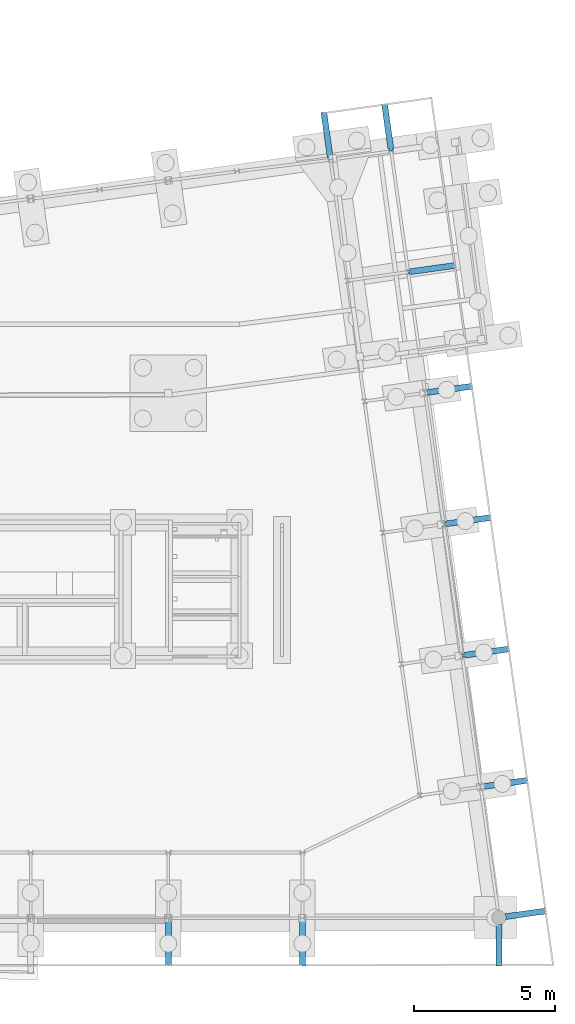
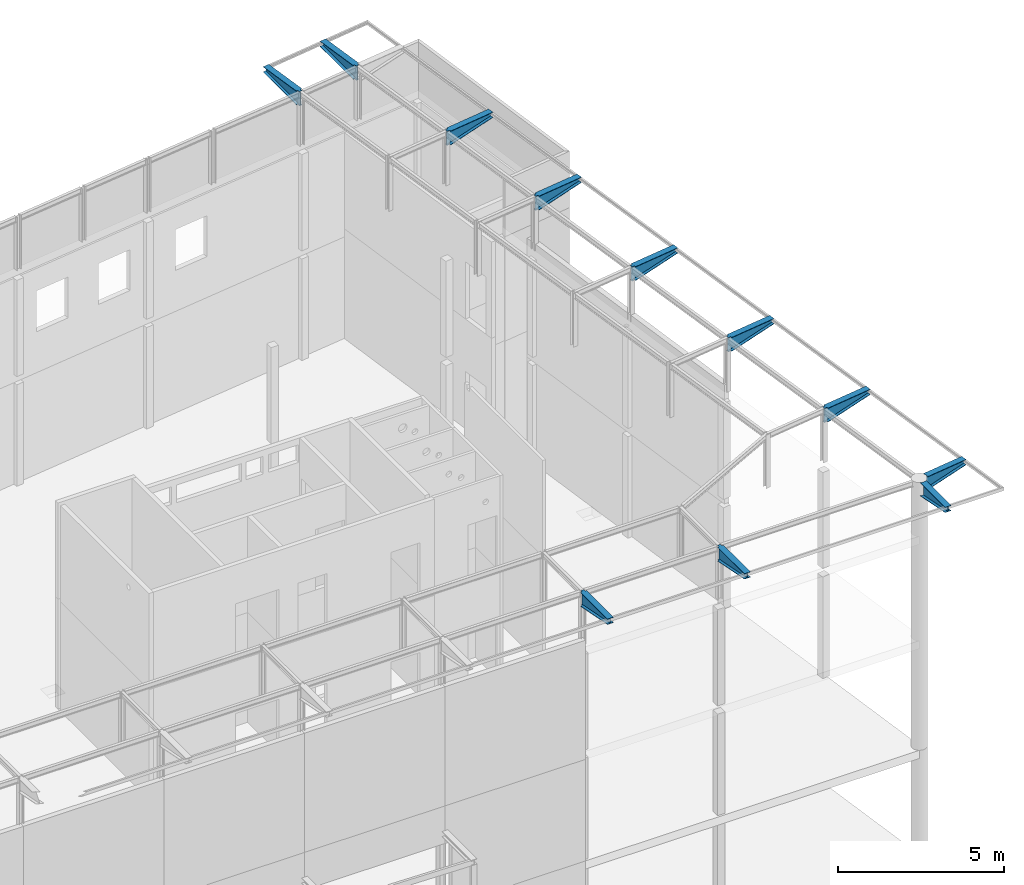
# One storey, part 81 of 82: 11 beams.
"""IFC2X3 building model written with IfcOpenShell, lengths in millimetres."""

import ifcopenshell
import ifcopenshell.guid

model = None  # the IFC model being written
_history = None  # IfcOwnerHistory: only IFC2X3 demands one
_inside = {}  # id of a spatial element -> (the spatial element, [elements in it])
_under = {}  # id of a project, library or spatial element -> (it, [spatial elements below it])
_declared = {}  # id of a project -> (the project, [libraries it declares])
_typed = {}  # id of a type object -> (the type object, [elements of that type])
_made_of = {}  # id of a material, layer set ... -> (it, [elements and type objects made of it])


def new_model(schema):
    """Start an empty IFC model of exactly this schema.

    Asked for "IFC4X3", IfcOpenShell would pick the latest addendum, in which some entities
    have other attributes; the version numbers below select the first issue.
    IFC2X3 requires an IfcOwnerHistory on every rooted entity: one is made here for all.
    """
    global model, _history
    if schema == "IFC4X3":
        model = ifcopenshell.file(schema_version=(4, 3, 0, 0))
    else:
        model = ifcopenshell.file(schema=schema)
    _inside.clear()
    _under.clear()
    _declared.clear()
    _typed.clear()
    _made_of.clear()
    _history = None
    if model.schema == "IFC2X3":
        org = make("IfcOrganization", Name="unknown")
        user = make(
            "IfcPersonAndOrganization",
            ThePerson=make("IfcPerson", FamilyName="unknown"),
            TheOrganization=org,
        )
        app = make(
            "IfcApplication",
            ApplicationDeveloper=org,
            Version="unknown",
            ApplicationFullName="unknown",
            ApplicationIdentifier="unknown",
        )
        _history = make(
            "IfcOwnerHistory",
            OwningUser=user,
            OwningApplication=app,
            ChangeAction="ADDED",
            CreationDate=0,
        )
    return model


def make(cls, **values):
    """One entity of the class cls with the attributes given. An attribute that is None is left unset."""
    return model.create_entity(
        cls, **{name: value for name, value in values.items() if value is not None}
    )


def rooted(cls, **values):
    """An entity with a GlobalId (a new one), such as an element, a storey or a relation."""
    return make(cls, GlobalId=ifcopenshell.guid.new(), OwnerHistory=_history, **values)


def si_unit(unit_type, name, prefix=None):
    """IfcSIUnit, for example si_unit("LENGTHUNIT", "METRE", prefix="MILLI")."""
    return make("IfcSIUnit", UnitType=unit_type, Prefix=prefix, Name=name)


def assignment(units):
    """IfcUnitAssignment: the units of a project."""
    return None if units is None else make("IfcUnitAssignment", Units=units)


def point(xyz):
    """IfcCartesianPoint."""
    return None if xyz is None else make("IfcCartesianPoint", Coordinates=xyz)


def direction(xyz):
    """IfcDirection."""
    return None if xyz is None else make("IfcDirection", DirectionRatios=xyz)


def frame(location, z_axis=None, x_axis=None):
    """IfcAxis2Placement3D, a coordinate frame: its origin and axes. An axis left out is left unset."""
    return make(
        "IfcAxis2Placement3D",
        Location=point(location),
        Axis=direction(z_axis),
        RefDirection=direction(x_axis),
    )


def origin_with_axes():
    """The frame at (0, 0, 0) with the z axis (0, 0, 1) and the x axis (1, 0, 0) written out."""
    return frame((0.0, 0.0, 0.0), z_axis=(0.0, 0.0, 1.0), x_axis=(1.0, 0.0, 0.0))


def place(relative_to, where):
    """IfcLocalPlacement: puts the frame where relative to a parent placement (None: the world)."""
    return make(
        "IfcLocalPlacement", PlacementRelTo=relative_to, RelativePlacement=where
    )


def context(
    kind, dimensions, precision=None, world=None, true_north=None, identifier=None
):
    """IfcGeometricRepresentationContext, for example the 3D "Model" context."""
    return make(
        "IfcGeometricRepresentationContext",
        ContextIdentifier=identifier,
        ContextType=kind,
        CoordinateSpaceDimension=dimensions,
        Precision=precision,
        WorldCoordinateSystem=world,
        TrueNorth=true_north,
    )


def subcontext(parent, identifier, kind, view, scale=None):
    """IfcGeometricRepresentationSubContext, for example "Body" below "Model"."""
    return make(
        "IfcGeometricRepresentationSubContext",
        ContextIdentifier=identifier,
        ContextType=kind,
        ParentContext=parent,
        TargetScale=scale,
        TargetView=view,
    )


def project(units=None, contexts=None):
    """IfcProject with its units and contexts."""
    return rooted(
        "IfcProject",
        Name="project",
        RepresentationContexts=contexts,
        UnitsInContext=assignment(units),
    )


def spatial(cls, under=None, at=None, **own):
    """A site, building, storey or space (cls), placed at a placement, below another one or the project."""
    s = rooted(cls, ObjectPlacement=at, **own)
    if under is not None:
        _under.setdefault(under.id(), (under, []))[1].append(s)
    return s


def faces_of(points, faces, orient=None, outer=None):
    """IfcFace entities. A face is a list of loops; a loop is a list of indices into points, from 0.

    orient and outer hold one flag for each loop. By default every Orientation is true, the
    first loop of a face is its IfcFaceOuterBound and the others are IfcFaceBound.
    """
    made = []
    for i, loops in enumerate(faces):
        bounds = []
        for j, loop in enumerate(loops):
            is_outer = j == 0 if outer is None else outer[i][j]
            bounds.append(
                make(
                    "IfcFaceOuterBound" if is_outer else "IfcFaceBound",
                    Bound=make("IfcPolyLoop", Polygon=[points[k] for k in loop]),
                    Orientation=True if orient is None else orient[i][j],
                )
            )
        made.append(make("IfcFace", Bounds=bounds))
    return made


def faceted_brep(points, faces, orient=None, outer=None, voids=None):
    """IfcFacetedBrep: a solid bounded by flat faces; with voids (closed shells), ...WithVoids."""
    shared = [point(p) for p in points]
    hull = make("IfcClosedShell", CfsFaces=faces_of(shared, faces, orient, outer))
    if voids is None:
        return make("IfcFacetedBrep", Outer=hull)
    return make(
        "IfcFacetedBrepWithVoids",
        Outer=hull,
        Voids=[
            make(cls, CfsFaces=faces_of(shared, fs, o, b)) for cls, fs, o, b in voids
        ],
    )


def shape(context_of_items, identifier, shape_type, items):
    """IfcShapeRepresentation: the items that make up one representation, for example the "Body"."""
    return make(
        "IfcShapeRepresentation",
        ContextOfItems=context_of_items,
        RepresentationIdentifier=identifier,
        RepresentationType=shape_type,
        Items=items,
    )


def material(Name=None, Category=None):
    """IfcMaterial."""
    return make("IfcMaterial", Name=Name, Category=Category)


def made_of(thing, what):
    """Note that an element or type object is made of a material, layer set ...; save() writes the relation."""
    if what is not None:
        _made_of.setdefault(what.id(), (what, []))[1].append(thing)
    return thing


def type_object(cls, material=None, **own):
    """A type object (cls), such as IfcWallType, which elements share."""
    return made_of(rooted(cls, **own), material)


def element(
    cls,
    number,
    at=None,
    inside=None,
    cuts=None,
    type_object=None,
    material=None,
    context=None,
    identifier="Body",
    shape_type=None,
    held_by="IfcProductDefinitionShape",
    body=None,
    shapes=None,
    **own,
):
    """One element of the class cls, such as IfcWall. Its Tag is "e" and its number.

    at: its placement. inside: the storey or other place that contains it. cuts: it is an
    opening in that element (IfcRelVoidsElement). A single representation is given by context,
    identifier, shape_type and body (its items); several are given by shapes. held_by: the class
    of the entity that holds the representations. save() writes the other relations.
    """
    e = rooted(cls, Tag="e%d" % number, ObjectPlacement=at, **own)
    if body is not None:
        shapes = [shape(context, identifier, shape_type, body)]
    if shapes is not None:
        e.Representation = make(held_by, Representations=shapes)
    if inside is not None:
        _inside.setdefault(inside.id(), (inside, []))[1].append(e)
    if cuts is not None:
        rooted(
            "IfcRelVoidsElement", RelatingBuildingElement=cuts, RelatedOpeningElement=e
        )
    if type_object is not None:
        _typed.setdefault(type_object.id(), (type_object, []))[1].append(e)
    return made_of(e, material)


def aggregate(whole, parts):
    """IfcRelAggregates: a whole, such as a stair, and the parts it consists of."""
    return rooted("IfcRelAggregates", RelatingObject=whole, RelatedObjects=parts)


def save(model, path):
    """Write the relations noted so far, then the file.

    IfcRelAggregates (storeys below a building ...), IfcRelContainedInSpatialStructure (elements
    in a storey), IfcRelDefinesByType, IfcRelAssociatesMaterial and IfcRelDeclares: one each for
    every whole, place, type object, material and project.
    """
    for whole, parts in _under.values():
        aggregate(whole, parts)
    for where, things in _inside.values():
        rooted(
            "IfcRelContainedInSpatialStructure",
            RelatedElements=things,
            RelatingStructure=where,
        )
    for kind, things in _typed.values():
        rooted("IfcRelDefinesByType", RelatedObjects=things, RelatingType=kind)
    for what, things in _made_of.values():
        rooted("IfcRelAssociatesMaterial", RelatedObjects=things, RelatingMaterial=what)
    for by, libraries in _declared.values():
        rooted("IfcRelDeclares", RelatingContext=by, RelatedDefinitions=libraries)
    model.write(path)


model = new_model("IFC2X3")

# Units and contexts
model_context = context("Model", 3, precision=1e-05, world=origin_with_axes())
body_context = subcontext(model_context, "Body", "Model", "MODEL_VIEW")
ifc_project = project(units=[si_unit("LENGTHUNIT", "METRE", prefix="MILLI"), si_unit("AREAUNIT", "SQUARE_METRE"), si_unit("VOLUMEUNIT", "CUBIC_METRE"), si_unit("MASSUNIT", "GRAM", prefix="KILO"), si_unit("TIMEUNIT", "SECOND"), si_unit("PLANEANGLEUNIT", "RADIAN"), si_unit("SOLIDANGLEUNIT", "STERADIAN"), si_unit("THERMODYNAMICTEMPERATUREUNIT", "DEGREE_CELSIUS"), si_unit("LUMINOUSINTENSITYUNIT", "LUMEN")], contexts=[model_context])

# Site, building, storey
site_placement = place(None, origin_with_axes())
site = spatial("IfcSite", under=ifc_project, at=site_placement, Name="Undefined", CompositionType="ELEMENT")
building_placement = place(site_placement, origin_with_axes())
building = spatial("IfcBuilding", under=site, at=building_placement, Name="Undefined", CompositionType="ELEMENT")
storey_placement = place(building_placement, origin_with_axes())
storey = spatial("IfcBuildingStorey", under=building, at=storey_placement, Name="Undefined", CompositionType="ELEMENT", Elevation=0.0)

# Beams
ifc_material = material(Name="STEEL/S275JR")
beam_type = type_object("IfcBeamType", Name="PHI533-200-10-14*210-14*210", PredefinedType="NOTDEFINED")
beam_1_placement = place(storey_placement, frame((65348.0373523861, 22892.6110551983, 19025.0297374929), z_axis=(0.0, -6.50000002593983e-08, -0.999999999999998), x_axis=(0.990267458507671, 0.139177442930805, 0.0)))
element("IfcBeam", 1, at=beam_1_placement, inside=storey, type_object=beam_type, material=ifc_material, Name="POUTRE", ObjectType="PHI533-200-10-14*210-14*210", context=body_context, shape_type="Brep", body=[
    faceted_brep([(90.0012728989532, -52.0058301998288, -99.9999999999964), (90.0012728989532, -52.0058301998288, -86.0), (4.00127287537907, -52.0062072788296, -86.0), (4.00127287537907, -52.006207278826, -100.0), (90.0015052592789, -105.000000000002, -100.0), (90.0015052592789, -105.000000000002, -86.0), (90.0012728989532, -52.0058301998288, 401.104277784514), (90.0012728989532, -52.0058301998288, 415.37033889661), (4.00127287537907, -52.006207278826, 432.216221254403), (4.00127287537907, -52.0062072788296, 417.950160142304), (90.0015052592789, -105.000000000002, 401.104232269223), (90.0015052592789, -105.000000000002, 415.370293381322), (4.00081685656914, 51.9975108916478, -100.0), (4.00081685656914, 51.9975108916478, -86.0), (90.000816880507, 51.9978879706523, -86.0), (90.000816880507, 51.9978879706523, -100.0), (1699.99999997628, 104.999999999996, 100.0), (1699.99999997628, 104.999999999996, 85.7339388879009), (90.0005844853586, 104.999999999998, 401.104412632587), (90.0005844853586, 104.999999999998, 415.370473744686), (4.00081685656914, 51.9975108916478, 417.950249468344), (4.00081685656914, 51.9975108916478, 432.216310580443), (90.000816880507, 51.9978879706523, 415.370428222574), (90.000816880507, 51.9978879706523, 401.104367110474), (1699.99999997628, 4.99999999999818, 85.7339388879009), (4.00102292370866, 4.99999999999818, 417.950209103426), (4.00102292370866, 4.99999999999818, -86.0), (1699.99999997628, 4.99999999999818, -86.0), (1699.99999997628, 104.999999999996, -86.0), (90.0005844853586, 104.999999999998, -86.0), (90.0005844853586, 104.999999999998, -100.0), (1699.99999997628, 104.999999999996, -100.0), (1699.99999997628, -105.000000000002, 100.0), (1699.99999997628, -105.000000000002, 85.7339388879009), (1699.99999997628, -5.00000000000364, 85.7339388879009), (1699.99999997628, -5.00000000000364, -86.0), (1699.99999997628, -105.000000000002, -86.0), (1699.99999997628, -105.000000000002, -100.0), (4.00106677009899, -5.00000000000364, 417.95020051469), (4.00106677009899, -5.00000000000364, -86.0)], [[[0, 1, 2, 3]], [[4, 5, 1, 0]], [[6, 7, 8, 9]], [[10, 11, 7, 6]], [[12, 13, 14, 15]], [[16, 17, 18, 19]], [[20, 21, 22, 23]], [[18, 23, 22, 19]], [[17, 24, 25, 20, 23, 18]], [[26, 25, 24, 27]], [[13, 26, 27, 28, 29, 14]], [[30, 15, 14, 29]], [[28, 31, 30, 29]], [[27, 24, 17, 16, 32, 33, 34, 35, 36, 37, 31, 28]], [[38, 39, 35, 34]], [[36, 35, 39, 2, 1, 5]], [[37, 36, 5, 4]], [[12, 15, 30, 31, 37, 4, 0, 3]], [[39, 38, 9, 8, 21, 20, 25, 26, 13, 12, 3, 2]], [[32, 16, 19, 22, 21, 8, 7, 11]], [[33, 32, 11, 10]], [[38, 34, 33, 10, 6, 9]]]),
])
beam_2_placement = place(storey_placement, frame((64746.6728575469, 27171.5574508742, 19025.0297374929), z_axis=(0.0, -6.50000002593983e-08, -0.999999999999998), x_axis=(-0.139177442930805, 0.990267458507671, 0.0)))
element("IfcBeam", 2, at=beam_2_placement, inside=storey, type_object=beam_type, material=ifc_material, Name="POUTRE", ObjectType="PHI533-200-10-14*210-14*210", context=body_context, shape_type="Brep", body=[
    faceted_brep([(90.0049957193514, -105.000000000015, -100.0), (90.0049957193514, -105.000000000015, -86.0), (90.0049957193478, -51.9994775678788, -86.0), (90.0049957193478, -51.9994775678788, -99.9999999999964), (4.00499568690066, -51.9994775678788, -100.0), (4.00499568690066, -51.9994775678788, -86.0), (90.0049957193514, -105.000000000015, 401.103548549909), (90.0049957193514, -105.000000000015, 415.369609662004), (90.0049957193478, -51.9994775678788, 415.369609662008), (90.0049957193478, -51.9994775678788, 401.103548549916), (4.00499568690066, -51.9994775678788, 417.949430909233), (4.00499568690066, -51.9994775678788, 432.215492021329), (4.00499568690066, 52.0005224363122, -100.0), (4.00499568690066, 52.0005224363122, -86.0), (90.0049957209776, 52.0005224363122, -86.0), (90.0049957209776, 52.0005224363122, -100.0), (1699.99999997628, 104.999999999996, 100.0), (1699.99999997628, 104.999999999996, 85.7339388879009), (90.0049957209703, 105.0, 401.103548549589), (90.0049957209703, 105.0, 415.369609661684), (4.00499568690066, 52.0005224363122, 417.949430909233), (4.00499568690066, 52.0005224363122, 432.215492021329), (90.0049957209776, 52.0005224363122, 415.369609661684), (90.0049957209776, 52.0005224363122, 401.103548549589), (1699.99999997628, 4.99999999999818, 85.7339388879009), (4.00499568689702, 4.99999999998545, 417.949430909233), (4.00499568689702, 4.99999999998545, -86.0), (1699.99999997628, 4.99999999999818, -86.0), (1699.99999997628, 104.999999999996, -86.0), (90.0049957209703, 105.0, -86.0), (90.0049957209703, 105.0, -100.0), (1699.99999997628, 104.999999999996, -100.0), (1699.99999997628, -105.000000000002, 100.0), (1699.99999997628, -105.000000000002, 85.7339388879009), (1699.99999997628, -5.00000000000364, 85.7339388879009), (1699.99999997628, -5.00000000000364, -86.0), (1699.99999997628, -105.000000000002, -86.0), (1699.99999997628, -105.000000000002, -100.0), (4.00499568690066, -5.0, 417.949430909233), (4.00499568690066, -5.0, -86.0)], [[[0, 1, 2, 3]], [[4, 3, 2, 5]], [[6, 7, 8, 9]], [[10, 9, 8, 11]], [[12, 13, 14, 15]], [[16, 17, 18, 19]], [[20, 21, 22, 23]], [[18, 23, 22, 19]], [[17, 24, 25, 20, 23, 18]], [[26, 25, 24, 27]], [[13, 26, 27, 28, 29, 14]], [[30, 15, 14, 29]], [[28, 31, 30, 29]], [[27, 24, 17, 16, 32, 33, 34, 35, 36, 37, 31, 28]], [[38, 39, 35, 34]], [[1, 36, 35, 39, 5, 2]], [[37, 36, 1, 0]], [[12, 15, 30, 31, 37, 0, 3, 4]], [[39, 38, 10, 11, 21, 20, 25, 26, 13, 12, 4, 5]], [[7, 32, 16, 19, 22, 21, 11, 8]], [[33, 32, 7, 6]], [[38, 34, 33, 6, 9, 10]]]),
])
beam_3_placement = place(storey_placement, frame((62597.7915619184, 26869.5523697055, 19025.0297374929), z_axis=(0.0, -6.50000002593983e-08, -0.999999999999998), x_axis=(-0.139177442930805, 0.990267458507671, 0.0)))
element("IfcBeam", 3, at=beam_3_placement, inside=storey, type_object=beam_type, material=ifc_material, Name="POUTRE", ObjectType="PHI533-200-10-14*210-14*210", context=body_context, shape_type="Brep", body=[
    faceted_brep([(90.0000000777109, -104.999999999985, -100.0), (90.0000000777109, -104.999999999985, -86.0), (90.0000000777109, -52.0002427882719, -86.0), (90.0000000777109, -52.0002427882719, -99.9999999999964), (4.00000004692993, -52.0002427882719, -100.0), (4.00000004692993, -52.0002427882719, -86.0), (90.0000000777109, -104.999999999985, 401.104527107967), (90.0000000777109, -104.999999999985, 415.370588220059), (90.0000000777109, -52.0002427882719, 415.370588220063), (90.0000000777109, -52.0002427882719, 401.104527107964), (4.00000004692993, -52.0002427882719, 417.95040946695), (4.00000004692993, -52.0002427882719, 432.216470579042), (4.00000004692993, 51.9997572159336, -100.0), (4.00000004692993, 51.9997572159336, -86.0), (90.0000000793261, 51.9997572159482, -86.0), (90.0000000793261, 51.9997572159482, -100.0), (1699.99999997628, 104.999999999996, 100.0), (1699.99999997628, 104.999999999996, 85.7339388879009), (90.0000000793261, 105.000000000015, 401.104527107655), (90.0000000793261, 105.000000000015, 415.370588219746), (4.00000004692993, 51.9997572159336, 417.95040946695), (4.00000004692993, 51.9997572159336, 432.216470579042), (90.0000000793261, 51.9997572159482, 415.370588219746), (90.0000000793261, 51.9997572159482, 401.104527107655), (1699.99999997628, 4.99999999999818, 85.7339388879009), (4.00000004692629, 5.0, 417.95040946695), (4.00000004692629, 5.0, -86.0), (1699.99999997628, 4.99999999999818, -86.0), (1699.99999997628, 104.999999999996, -86.0), (90.0000000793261, 105.000000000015, -86.0), (90.0000000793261, 105.000000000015, -100.0), (1699.99999997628, 104.999999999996, -100.0), (1699.99999997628, -105.000000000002, 100.0), (1699.99999997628, -105.000000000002, 85.7339388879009), (1699.99999997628, -5.00000000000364, 85.7339388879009), (1699.99999997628, -5.00000000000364, -86.0), (1699.99999997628, -105.000000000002, -86.0), (1699.99999997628, -105.000000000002, -100.0), (4.00000004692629, -5.0, 417.95040946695), (4.00000004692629, -5.0, -86.0)], [[[0, 1, 2, 3]], [[4, 3, 2, 5]], [[6, 7, 8, 9]], [[10, 9, 8, 11]], [[12, 13, 14, 15]], [[16, 17, 18, 19]], [[20, 21, 22, 23]], [[18, 23, 22, 19]], [[17, 24, 25, 20, 23, 18]], [[26, 25, 24, 27]], [[13, 26, 27, 28, 29, 14]], [[30, 15, 14, 29]], [[28, 31, 30, 29]], [[27, 24, 17, 16, 32, 33, 34, 35, 36, 37, 31, 28]], [[38, 39, 35, 34]], [[1, 36, 35, 39, 5, 2]], [[37, 36, 1, 0]], [[12, 15, 30, 31, 37, 0, 3, 4]], [[39, 38, 10, 11, 21, 20, 25, 26, 13, 12, 4, 5]], [[7, 32, 16, 19, 22, 21, 11, 8]], [[33, 32, 7, 6]], [[38, 34, 33, 6, 9, 10]]]),
])
beam_4_placement = place(storey_placement, frame((65949.4047086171, 18613.6605073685, 19025.0297374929), z_axis=(0.0, -6.50000002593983e-08, -0.999999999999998), x_axis=(0.990267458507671, 0.139177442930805, 0.0)))
element("IfcBeam", 4, at=beam_4_placement, inside=storey, type_object=beam_type, material=ifc_material, Name="POUTRE", ObjectType="PHI533-200-10-14*210-14*210", context=body_context, shape_type="Brep", body=[
    faceted_brep([(90.0012728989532, -52.0058301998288, -99.9999999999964), (90.0012728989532, -52.0058301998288, -86.0), (4.00127287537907, -52.0062072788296, -86.0), (4.00127287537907, -52.006207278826, -100.0), (90.0015052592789, -105.000000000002, -100.0), (90.0015052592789, -105.000000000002, -86.0), (90.0012728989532, -52.0058301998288, 401.104277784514), (90.0012728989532, -52.0058301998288, 415.37033889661), (4.00127287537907, -52.006207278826, 432.216221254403), (4.00127287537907, -52.0062072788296, 417.950160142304), (90.0015052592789, -105.000000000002, 401.104232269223), (90.0015052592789, -105.000000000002, 415.370293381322), (4.00081685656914, 51.9975108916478, -100.0), (4.00081685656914, 51.9975108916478, -86.0), (90.000816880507, 51.9978879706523, -86.0), (90.000816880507, 51.9978879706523, -100.0), (1699.99999997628, 104.999999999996, 100.0), (1699.99999997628, 104.999999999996, 85.7339388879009), (90.0005844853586, 104.999999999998, 401.104412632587), (90.0005844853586, 104.999999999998, 415.370473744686), (4.00081685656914, 51.9975108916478, 417.950249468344), (4.00081685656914, 51.9975108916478, 432.216310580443), (90.000816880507, 51.9978879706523, 415.370428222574), (90.000816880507, 51.9978879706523, 401.104367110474), (1699.99999997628, 4.99999999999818, 85.7339388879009), (4.00102292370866, 4.99999999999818, 417.950209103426), (4.00102292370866, 4.99999999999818, -86.0), (1699.99999997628, 4.99999999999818, -86.0), (1699.99999997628, 104.999999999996, -86.0), (90.0005844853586, 104.999999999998, -86.0), (90.0005844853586, 104.999999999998, -100.0), (1699.99999997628, 104.999999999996, -100.0), (1699.99999997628, -105.000000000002, 100.0), (1699.99999997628, -105.000000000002, 85.7339388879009), (1699.99999997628, -5.00000000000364, 85.7339388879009), (1699.99999997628, -5.00000000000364, -86.0), (1699.99999997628, -105.000000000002, -86.0), (1699.99999997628, -105.000000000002, -100.0), (4.00106677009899, -5.00000000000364, 417.95020051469), (4.00106677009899, -5.00000000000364, -86.0)], [[[0, 1, 2, 3]], [[4, 5, 1, 0]], [[6, 7, 8, 9]], [[10, 11, 7, 6]], [[12, 13, 14, 15]], [[16, 17, 18, 19]], [[20, 21, 22, 23]], [[18, 23, 22, 19]], [[17, 24, 25, 20, 23, 18]], [[26, 25, 24, 27]], [[13, 26, 27, 28, 29, 14]], [[30, 15, 14, 29]], [[28, 31, 30, 29]], [[27, 24, 17, 16, 32, 33, 34, 35, 36, 37, 31, 28]], [[38, 39, 35, 34]], [[36, 35, 39, 2, 1, 5]], [[37, 36, 5, 4]], [[12, 15, 30, 31, 37, 4, 0, 3]], [[39, 38, 9, 8, 21, 20, 25, 26, 13, 12, 3, 2]], [[32, 16, 19, 22, 21, 8, 7, 11]], [[33, 32, 11, 10]], [[38, 34, 33, 10, 6, 9]]]),
])
beam_5_placement = place(storey_placement, frame((66603.5188850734, 13959.4006688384, 19025.0297374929), z_axis=(0.0, -6.50000002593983e-08, -0.999999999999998), x_axis=(0.990267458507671, 0.139177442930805, 0.0)))
element("IfcBeam", 5, at=beam_5_placement, inside=storey, type_object=beam_type, material=ifc_material, Name="POUTRE", ObjectType="PHI533-200-10-14*210-14*210", context=body_context, shape_type="Brep", body=[
    faceted_brep([(90.0012728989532, -52.0058301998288, -99.9999999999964), (90.0012728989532, -52.0058301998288, -86.0), (4.00127287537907, -52.0062072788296, -86.0), (4.00127287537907, -52.006207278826, -100.0), (90.0015052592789, -105.000000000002, -100.0), (90.0015052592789, -105.000000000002, -86.0), (90.0012728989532, -52.0058301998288, 401.104277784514), (90.0012728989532, -52.0058301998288, 415.37033889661), (4.00127287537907, -52.006207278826, 432.216221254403), (4.00127287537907, -52.0062072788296, 417.950160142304), (90.0015052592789, -105.000000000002, 401.104232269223), (90.0015052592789, -105.000000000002, 415.370293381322), (4.00081685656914, 51.9975108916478, -100.0), (4.00081685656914, 51.9975108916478, -86.0), (90.000816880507, 51.9978879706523, -86.0), (90.000816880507, 51.9978879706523, -100.0), (1699.99999997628, 104.999999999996, 100.0), (1699.99999997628, 104.999999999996, 85.7339388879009), (90.0005844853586, 104.999999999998, 401.104412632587), (90.0005844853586, 104.999999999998, 415.370473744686), (4.00081685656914, 51.9975108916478, 417.950249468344), (4.00081685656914, 51.9975108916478, 432.216310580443), (90.000816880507, 51.9978879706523, 415.370428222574), (90.000816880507, 51.9978879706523, 401.104367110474), (1699.99999997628, 4.99999999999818, 85.7339388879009), (4.00102292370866, 4.99999999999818, 417.950209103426), (4.00102292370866, 4.99999999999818, -86.0), (1699.99999997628, 4.99999999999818, -86.0), (1699.99999997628, 104.999999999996, -86.0), (90.0005844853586, 104.999999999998, -86.0), (90.0005844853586, 104.999999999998, -100.0), (1699.99999997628, 104.999999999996, -100.0), (1699.99999997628, -105.000000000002, 100.0), (1699.99999997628, -105.000000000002, 85.7339388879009), (1699.99999997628, -5.00000000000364, 85.7339388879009), (1699.99999997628, -5.00000000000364, -86.0), (1699.99999997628, -105.000000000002, -86.0), (1699.99999997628, -105.000000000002, -100.0), (4.00106677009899, -5.00000000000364, 417.95020051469), (4.00106677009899, -5.00000000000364, -86.0)], [[[0, 1, 2, 3]], [[4, 5, 1, 0]], [[6, 7, 8, 9]], [[10, 11, 7, 6]], [[12, 13, 14, 15]], [[16, 17, 18, 19]], [[20, 21, 22, 23]], [[18, 23, 22, 19]], [[17, 24, 25, 20, 23, 18]], [[26, 25, 24, 27]], [[13, 26, 27, 28, 29, 14]], [[30, 15, 14, 29]], [[28, 31, 30, 29]], [[27, 24, 17, 16, 32, 33, 34, 35, 36, 37, 31, 28]], [[38, 39, 35, 34]], [[36, 35, 39, 2, 1, 5]], [[37, 36, 5, 4]], [[12, 15, 30, 31, 37, 4, 0, 3]], [[39, 38, 9, 8, 21, 20, 25, 26, 13, 12, 3, 2]], [[32, 16, 19, 22, 21, 8, 7, 11]], [[33, 32, 11, 10]], [[38, 34, 33, 10, 6, 9]]]),
])
beam_6_placement = place(storey_placement, frame((67257.6330615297, 9305.14083030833, 19025.0297374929), z_axis=(0.0, -6.50000002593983e-08, -0.999999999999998), x_axis=(0.990267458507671, 0.139177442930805, 0.0)))
element("IfcBeam", 6, at=beam_6_placement, inside=storey, type_object=beam_type, material=ifc_material, Name="POUTRE", ObjectType="PHI533-200-10-14*210-14*210", context=body_context, shape_type="Brep", body=[
    faceted_brep([(90.0012728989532, -52.0058301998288, -99.9999999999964), (90.0012728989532, -52.0058301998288, -86.0), (4.00127287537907, -52.0062072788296, -86.0), (4.00127287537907, -52.006207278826, -100.0), (90.0015052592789, -105.000000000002, -100.0), (90.0015052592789, -105.000000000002, -86.0), (90.0012728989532, -52.0058301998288, 401.104277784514), (90.0012728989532, -52.0058301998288, 415.37033889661), (4.00127287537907, -52.006207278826, 432.216221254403), (4.00127287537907, -52.0062072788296, 417.950160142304), (90.0015052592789, -105.000000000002, 401.104232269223), (90.0015052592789, -105.000000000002, 415.370293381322), (4.00081685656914, 51.9975108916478, -100.0), (4.00081685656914, 51.9975108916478, -86.0), (90.000816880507, 51.9978879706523, -86.0), (90.000816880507, 51.9978879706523, -100.0), (1699.99999997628, 104.999999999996, 100.0), (1699.99999997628, 104.999999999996, 85.7339388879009), (90.0005844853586, 104.999999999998, 401.104412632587), (90.0005844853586, 104.999999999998, 415.370473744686), (4.00081685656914, 51.9975108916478, 417.950249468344), (4.00081685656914, 51.9975108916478, 432.216310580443), (90.000816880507, 51.9978879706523, 415.370428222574), (90.000816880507, 51.9978879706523, 401.104367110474), (1699.99999997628, 4.99999999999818, 85.7339388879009), (4.00102292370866, 4.99999999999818, 417.950209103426), (4.00102292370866, 4.99999999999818, -86.0), (1699.99999997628, 4.99999999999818, -86.0), (1699.99999997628, 104.999999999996, -86.0), (90.0005844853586, 104.999999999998, -86.0), (90.0005844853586, 104.999999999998, -100.0), (1699.99999997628, 104.999999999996, -100.0), (1699.99999997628, -105.000000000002, 100.0), (1699.99999997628, -105.000000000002, 85.7339388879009), (1699.99999997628, -5.00000000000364, 85.7339388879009), (1699.99999997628, -5.00000000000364, -86.0), (1699.99999997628, -105.000000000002, -86.0), (1699.99999997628, -105.000000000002, -100.0), (4.00106677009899, -5.00000000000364, 417.95020051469), (4.00106677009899, -5.00000000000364, -86.0)], [[[0, 1, 2, 3]], [[4, 5, 1, 0]], [[6, 7, 8, 9]], [[10, 11, 7, 6]], [[12, 13, 14, 15]], [[16, 17, 18, 19]], [[20, 21, 22, 23]], [[18, 23, 22, 19]], [[17, 24, 25, 20, 23, 18]], [[26, 25, 24, 27]], [[13, 26, 27, 28, 29, 14]], [[30, 15, 14, 29]], [[28, 31, 30, 29]], [[27, 24, 17, 16, 32, 33, 34, 35, 36, 37, 31, 28]], [[38, 39, 35, 34]], [[36, 35, 39, 2, 1, 5]], [[37, 36, 5, 4]], [[12, 15, 30, 31, 37, 4, 0, 3]], [[39, 38, 9, 8, 21, 20, 25, 26, 13, 12, 3, 2]], [[32, 16, 19, 22, 21, 8, 7, 11]], [[33, 32, 11, 10]], [[38, 34, 33, 10, 6, 9]]]),
])
beam_7_placement = place(storey_placement, frame((68562.2438770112, 22.4002621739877, 19025.0297374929), z_axis=(0.0, -6.50000002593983e-08, -0.999999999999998), x_axis=(0.990267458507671, 0.139177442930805, 0.0)))
element("IfcBeam", 7, at=beam_7_placement, inside=storey, type_object=beam_type, material=ifc_material, Name="POUTRE", ObjectType="PHI533-200-10-14*210-14*210", context=body_context, shape_type="Brep", body=[
    faceted_brep([(226.27166823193, -105.000000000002, -100.0), (226.27166823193, -105.000000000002, -86.0), (237.764159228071, -77.2546418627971, -86.0), (237.764159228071, -77.2546418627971, -100.0), (246.922100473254, -39.1090059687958, -86.0), (246.922100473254, -39.1090059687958, -100.0), (226.27166823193, -105.000000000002, 374.411312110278), (226.27166823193, -105.000000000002, 388.677373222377), (237.764159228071, -77.2546418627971, 386.426197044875), (237.764159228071, -77.2546418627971, 372.160135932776), (246.922100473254, -39.1090059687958, 384.632317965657), (246.922100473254, -39.1090059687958, 370.366256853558), (249.606524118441, -5.00000000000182, -86.0), (249.606524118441, -5.00000000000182, 369.84042563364), (250.000000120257, -0.000388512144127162, 384.029411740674), (250.000000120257, -0.000388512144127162, -100.0), (237.76409916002, 77.2538553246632, 372.160147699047), (237.76409916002, 77.2538553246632, 386.426208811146), (226.271257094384, 104.999999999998, 388.677453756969), (226.271257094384, 104.999999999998, 374.41139264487), (246.922070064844, 39.1082265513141, 370.366262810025), (246.922070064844, 39.1082265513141, 384.632323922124), (237.76409916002, 77.2538553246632, -100.0), (237.76409916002, 77.2538553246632, -86.0), (226.271257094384, 104.999999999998, -86.0), (226.271257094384, 104.999999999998, -100.0), (246.922070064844, 39.1082265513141, -100.0), (246.922070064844, 39.1082265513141, -86.0), (249.606459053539, 4.99999999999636, 369.840438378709), (249.606459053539, 4.99999999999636, -86.0), (1699.99999997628, 4.99999999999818, -86.0), (1699.99999997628, 4.99999999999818, 85.7339388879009), (1699.99999997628, 104.999999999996, 85.7339388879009), (1699.99999997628, 104.999999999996, 100.0), (1699.99999997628, -105.000000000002, 100.0), (1699.99999997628, -105.000000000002, 85.7339388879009), (1699.99999997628, -5.00000000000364, 85.7339388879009), (1699.99999997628, -5.00000000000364, -86.0), (1699.99999997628, -105.000000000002, -86.0), (1699.99999997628, -105.000000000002, -100.0), (1699.99999997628, 104.999999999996, -100.0), (1699.99999997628, 104.999999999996, -86.0)], [[[0, 1, 2, 3]], [[3, 2, 4, 5]], [[6, 7, 8, 9]], [[9, 8, 10, 11]], [[5, 4, 12, 13, 11, 10, 14, 15]], [[16, 17, 18, 19]], [[20, 21, 17, 16]], [[22, 23, 24, 25]], [[26, 27, 23, 22]], [[15, 14, 21, 20, 28, 29, 27, 26]], [[30, 31, 32, 33, 34, 35, 36, 37, 38, 39, 40, 41]], [[41, 40, 25, 24]], [[30, 41, 24, 23, 27, 29]], [[31, 30, 29, 28]], [[19, 32, 31, 28, 20, 16]], [[33, 32, 19, 18]], [[10, 8, 7, 34, 33, 18, 17, 21, 14]], [[35, 34, 7, 6]], [[36, 35, 6, 9, 11, 13]], [[37, 36, 13, 12]], [[2, 1, 38, 37, 12, 4]], [[39, 38, 1, 0]], [[25, 40, 39, 0, 3, 5, 15, 26, 22]]]),
])
beam_8_placement = place(storey_placement, frame((68565.3869415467, -1.24972871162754e-07, 19025.0297374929), z_axis=(0.0, -6.50000002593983e-08, -0.999999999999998), x_axis=(-2.77555756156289e-17, -1.0, 0.0)))
element("IfcBeam", 8, at=beam_8_placement, inside=storey, type_object=beam_type, material=ifc_material, Name="POUTRE", ObjectType="PHI533-200-10-14*210-14*210", context=body_context, shape_type="Brep", body=[
    faceted_brep([(202.531987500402, -105.0, 379.061496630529), (202.531987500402, -105.0, 393.327557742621), (215.168339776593, -74.7088478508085, 390.852319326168), (215.168339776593, -74.7088478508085, 376.58625821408), (224.422202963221, -36.5863683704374, 389.039650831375), (224.422202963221, -36.5863683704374, 374.773589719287), (215.556927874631, 79.7991606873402, 376.510140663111), (215.556927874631, 79.7991606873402, 390.776201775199), (205.192575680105, 105.0, 392.806395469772), (205.192575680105, 105.0, 378.54033435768), (224.618918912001, 41.6306167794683, 374.735056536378), (224.618918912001, 41.6306167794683, 389.00111764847), (215.556927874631, 79.7991606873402, -100.0), (215.556927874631, 79.7991606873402, -86.0), (205.192575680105, 105.0, -86.0), (205.192575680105, 105.0, -100.0), (224.618918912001, 41.6306167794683, -100.0), (224.618918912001, 41.6306167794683, -86.0), (227.598466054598, 2.51438326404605, -100.0), (227.598466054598, 2.51438326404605, 388.417476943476), (227.409132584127, 5.0, 374.188502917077), (227.409132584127, 5.0, -86.0), (224.422202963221, -36.5863683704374, -100.0), (224.422202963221, -36.5863683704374, -86.0), (226.988051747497, -5.0, -86.0), (226.988051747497, -5.0, 374.270985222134), (215.168339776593, -74.7088478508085, -100.0), (215.168339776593, -74.7088478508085, -86.0), (202.531987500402, -105.0, -100.0), (202.531987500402, -105.0, -86.0), (1699.99999997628, 4.99999999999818, -86.0), (1699.99999997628, 4.99999999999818, 85.7339388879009), (1699.99999997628, 104.999999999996, 85.7339388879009), (1699.99999997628, 104.999999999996, 100.0), (1699.99999997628, -105.000000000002, 100.0), (1699.99999997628, -105.000000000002, 85.7339388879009), (1699.99999997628, -5.00000000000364, 85.7339388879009), (1699.99999997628, -5.00000000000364, -86.0), (1699.99999997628, -105.000000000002, -86.0), (1699.99999997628, -105.000000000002, -100.0), (1699.99999997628, 104.999999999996, -100.0), (1699.99999997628, 104.999999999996, -86.0)], [[[0, 1, 2, 3]], [[3, 2, 4, 5]], [[6, 7, 8, 9]], [[10, 11, 7, 6]], [[12, 13, 14, 15]], [[16, 17, 13, 12]], [[18, 19, 11, 10, 20, 21, 17, 16]], [[22, 23, 24, 25, 5, 4, 19, 18]], [[26, 27, 23, 22]], [[28, 29, 27, 26]], [[30, 31, 32, 33, 34, 35, 36, 37, 38, 39, 40, 41]], [[22, 18, 16, 12, 15, 40, 39, 28, 26]], [[41, 40, 15, 14]], [[30, 41, 14, 13, 17, 21]], [[31, 30, 21, 20]], [[6, 9, 32, 31, 20, 10]], [[33, 32, 9, 8]], [[34, 33, 8, 7, 11, 19, 4, 2, 1]], [[35, 34, 1, 0]], [[5, 25, 36, 35, 0, 3]], [[37, 36, 25, 24]], [[38, 37, 24, 23, 27, 29]], [[39, 38, 29, 28]]]),
])
beam_9_placement = place(storey_placement, frame((67911.7472380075, 4650.88099177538, 19025.0297374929), z_axis=(0.0, -6.50000002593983e-08, -0.999999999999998), x_axis=(0.990267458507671, 0.139177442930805, 0.0)))
element("IfcBeam", 9, at=beam_9_placement, inside=storey, type_object=beam_type, material=ifc_material, Name="POUTRE", ObjectType="PHI533-200-10-14*210-14*210", context=body_context, shape_type="Brep", body=[
    faceted_brep([(90.0002319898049, -52.0036311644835, -99.9999999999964), (90.0002319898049, -52.0036311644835, -86.0), (4.00023198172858, -52.0040145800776, -86.0), (4.00023198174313, -52.0040145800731, -100.0), (90.0004682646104, -104.999999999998, -100.0), (90.0004682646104, -104.999999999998, -86.0), (90.0002319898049, -52.0036311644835, 401.104481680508), (90.0002319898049, -52.0036311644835, 415.370542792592), (4.00023198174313, -52.0040145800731, 432.216425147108), (4.00023198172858, -52.0040145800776, 417.950364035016), (90.0004682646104, -104.999999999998, 401.10443539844), (90.0004682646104, -104.999999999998, 415.370496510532), (3.99976829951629, 51.9997660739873, -100.0), (3.99976829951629, 51.9997660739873, -86.0), (89.9997683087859, 52.0001494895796, -86.0), (89.9997683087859, 52.0001494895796, -100.0), (1699.99999997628, 104.999999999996, 100.0), (1699.99999997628, 104.999999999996, 85.7339388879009), (89.9995320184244, 104.999999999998, 401.104618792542), (89.9995320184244, 104.999999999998, 415.370679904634), (3.99976829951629, 51.9997660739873, 417.950454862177), (3.99976829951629, 51.9997660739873, 432.216515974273), (89.9997683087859, 52.0001494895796, 415.370633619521), (89.9997683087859, 52.0001494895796, 401.104572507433), (1699.99999997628, 4.99999999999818, 85.7339388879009), (4.00000004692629, 5.0, 417.95040946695), (4.00000004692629, 5.0, -86.0), (1699.99999997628, 4.99999999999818, -86.0), (1699.99999997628, 104.999999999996, -86.0), (89.9995320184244, 104.999999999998, -86.0), (89.9995320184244, 104.999999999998, -100.0), (1699.99999997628, 104.999999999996, -100.0), (1699.99999997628, -105.000000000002, 100.0), (1699.99999997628, -105.000000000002, 85.7339388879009), (1699.99999997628, -5.00000000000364, 85.7339388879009), (1699.99999997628, -5.00000000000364, -86.0), (1699.99999997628, -105.000000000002, -86.0), (1699.99999997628, -105.000000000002, -100.0), (4.00000004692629, -5.0, 417.95040946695), (4.00000004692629, -5.0, -86.0)], [[[0, 1, 2, 3]], [[4, 5, 1, 0]], [[6, 7, 8, 9]], [[10, 11, 7, 6]], [[12, 13, 14, 15]], [[16, 17, 18, 19]], [[20, 21, 22, 23]], [[18, 23, 22, 19]], [[17, 24, 25, 20, 23, 18]], [[26, 25, 24, 27]], [[13, 26, 27, 28, 29, 14]], [[30, 15, 14, 29]], [[28, 31, 30, 29]], [[27, 24, 17, 16, 32, 33, 34, 35, 36, 37, 31, 28]], [[38, 39, 35, 34]], [[36, 35, 39, 2, 1, 5]], [[37, 36, 5, 4]], [[12, 15, 30, 31, 37, 4, 0, 3]], [[39, 38, 9, 8, 21, 20, 25, 26, 13, 12, 3, 2]], [[32, 16, 19, 22, 21, 8, 7, 11]], [[33, 32, 11, 10]], [[38, 34, 33, 10, 6, 9]]]),
])
beam_10_placement = place(storey_placement, frame((61599.9995146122, -8.58469491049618e-08, 19025.0297374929), z_axis=(0.0, -6.50000002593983e-08, -0.999999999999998), x_axis=(-2.77555756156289e-17, -1.0, 0.0)))
element("IfcBeam", 10, at=beam_10_placement, inside=storey, type_object=beam_type, material=ifc_material, Name="POUTRE", ObjectType="PHI533-200-10-14*210-14*210", context=body_context, shape_type="Brep", body=[
    faceted_brep([(3.99994944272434, -52.000244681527, -100.0), (89.9999494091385, -52.0003284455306, -99.9999999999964), (89.9999494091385, -52.0003284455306, -86.0), (3.99994944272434, -52.000244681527, -86.0), (89.9998977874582, -105.0, -100.0), (89.9998977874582, -105.0, -86.0), (3.99994944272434, -52.000244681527, 417.95041937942), (89.9999494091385, -52.0003284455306, 401.104537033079), (89.9999494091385, -52.0003284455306, 415.370598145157), (3.99994944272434, -52.000244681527, 432.216480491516), (89.9998977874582, -105.0, 401.104547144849), (89.9998977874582, -105.0, 415.370608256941), (4.00000004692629, -5.0, 417.95040946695), (1699.99999997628, -5.00000000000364, 85.7339388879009), (1699.99999997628, -105.000000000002, 85.7339388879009), (1699.99999997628, 104.999999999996, 100.0), (1699.99999997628, 104.999999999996, 85.7339388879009), (90.0001023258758, 105.0, 401.104507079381), (90.0001023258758, 105.0, 415.370568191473), (90.0000507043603, 52.0004975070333, 401.104517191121), (90.0000507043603, 52.0004975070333, 415.370578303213), (4.00005073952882, 52.0005812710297, 417.950399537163), (4.00005073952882, 52.0005812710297, 432.216460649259), (1699.99999997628, 4.99999999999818, 85.7339388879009), (4.00000004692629, 5.0, 417.95040946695), (4.00000004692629, 5.0, -86.0), (1699.99999997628, 4.99999999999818, -86.0), (4.00005073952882, 52.0005812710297, -100.0), (90.0000507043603, 52.0004975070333, -100.0), (90.0001023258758, 105.0, -100.0), (1699.99999997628, 104.999999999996, -100.0), (1699.99999997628, -105.000000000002, -100.0), (4.00005073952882, 52.0005812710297, -86.0), (90.0000507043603, 52.0004975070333, -86.0), (1699.99999997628, 104.999999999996, -86.0), (90.0001023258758, 105.0, -86.0), (1699.99999997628, -105.000000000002, 100.0), (1699.99999997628, -5.00000000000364, -86.0), (1699.99999997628, -105.000000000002, -86.0), (4.00000004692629, -5.0, -86.0)], [[[0, 1, 2, 3]], [[4, 5, 2, 1]], [[6, 7, 8, 9]], [[10, 11, 8, 7]], [[6, 12, 13, 14, 10, 7]], [[15, 16, 17, 18]], [[19, 20, 18, 17]], [[21, 22, 20, 19]], [[17, 16, 23, 24, 21, 19]], [[25, 24, 23, 26]], [[0, 27, 28, 29, 30, 31, 4, 1]], [[27, 32, 33, 28]], [[25, 26, 34, 35, 33, 32]], [[28, 33, 35, 29]], [[34, 30, 29, 35]], [[26, 23, 16, 15, 36, 14, 13, 37, 38, 31, 30, 34]], [[12, 39, 37, 13]], [[38, 37, 39, 3, 2, 5]], [[31, 38, 5, 4]], [[39, 12, 6, 9, 22, 21, 24, 25, 32, 27, 0, 3]], [[36, 15, 18, 20, 22, 9, 8, 11]], [[14, 36, 11, 10]]]),
])
beam_11_placement = place(storey_placement, frame((56849.9995146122, -7.82867743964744e-08, 19025.0297374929), z_axis=(0.0, -6.50000002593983e-08, -0.999999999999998), x_axis=(-2.77555756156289e-17, -1.0, 0.0)))
element("IfcBeam", 11, at=beam_11_placement, inside=storey, type_object=beam_type, material=ifc_material, Name="POUTRE", ObjectType="PHI533-200-10-14*210-14*210", context=body_context, shape_type="Brep", body=[
    faceted_brep([(3.99994944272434, -52.000244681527, -100.0), (89.9999494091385, -52.0003284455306, -99.9999999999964), (89.9999494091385, -52.0003284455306, -86.0), (3.99994944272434, -52.000244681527, -86.0), (89.9998977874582, -105.0, -100.0), (89.9998977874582, -105.0, -86.0), (3.99994944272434, -52.000244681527, 417.95041937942), (89.9999494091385, -52.0003284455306, 401.104537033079), (89.9999494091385, -52.0003284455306, 415.370598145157), (3.99994944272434, -52.000244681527, 432.216480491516), (89.9998977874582, -105.0, 401.104547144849), (89.9998977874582, -105.0, 415.370608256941), (4.00000004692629, -5.0, 417.95040946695), (1699.99999997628, -5.00000000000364, 85.7339388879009), (1699.99999997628, -105.000000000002, 85.7339388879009), (1699.99999997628, 104.999999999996, 100.0), (1699.99999997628, 104.999999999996, 85.7339388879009), (90.0001023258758, 105.0, 401.104507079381), (90.0001023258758, 105.0, 415.370568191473), (90.0000507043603, 52.0004975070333, 401.104517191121), (90.0000507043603, 52.0004975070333, 415.370578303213), (4.00005073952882, 52.0005812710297, 417.950399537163), (4.00005073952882, 52.0005812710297, 432.216460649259), (1699.99999997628, 4.99999999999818, 85.7339388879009), (4.00000004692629, 5.0, 417.95040946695), (4.00000004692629, 5.0, -86.0), (1699.99999997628, 4.99999999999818, -86.0), (4.00005073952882, 52.0005812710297, -100.0), (90.0000507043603, 52.0004975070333, -100.0), (90.0001023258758, 105.0, -100.0), (1699.99999997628, 104.999999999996, -100.0), (1699.99999997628, -105.000000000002, -100.0), (4.00005073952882, 52.0005812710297, -86.0), (90.0000507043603, 52.0004975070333, -86.0), (1699.99999997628, 104.999999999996, -86.0), (90.0001023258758, 105.0, -86.0), (1699.99999997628, -105.000000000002, 100.0), (1699.99999997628, -5.00000000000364, -86.0), (1699.99999997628, -105.000000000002, -86.0), (4.00000004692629, -5.0, -86.0)], [[[0, 1, 2, 3]], [[4, 5, 2, 1]], [[6, 7, 8, 9]], [[10, 11, 8, 7]], [[6, 12, 13, 14, 10, 7]], [[15, 16, 17, 18]], [[19, 20, 18, 17]], [[21, 22, 20, 19]], [[17, 16, 23, 24, 21, 19]], [[25, 24, 23, 26]], [[0, 27, 28, 29, 30, 31, 4, 1]], [[27, 32, 33, 28]], [[25, 26, 34, 35, 33, 32]], [[28, 33, 35, 29]], [[34, 30, 29, 35]], [[26, 23, 16, 15, 36, 14, 13, 37, 38, 31, 30, 34]], [[12, 39, 37, 13]], [[38, 37, 39, 3, 2, 5]], [[31, 38, 5, 4]], [[39, 12, 6, 9, 22, 21, 24, 25, 32, 27, 0, 3]], [[36, 15, 18, 20, 22, 9, 8, 11]], [[14, 36, 11, 10]]]),
])

save(model, "model.ifc")
